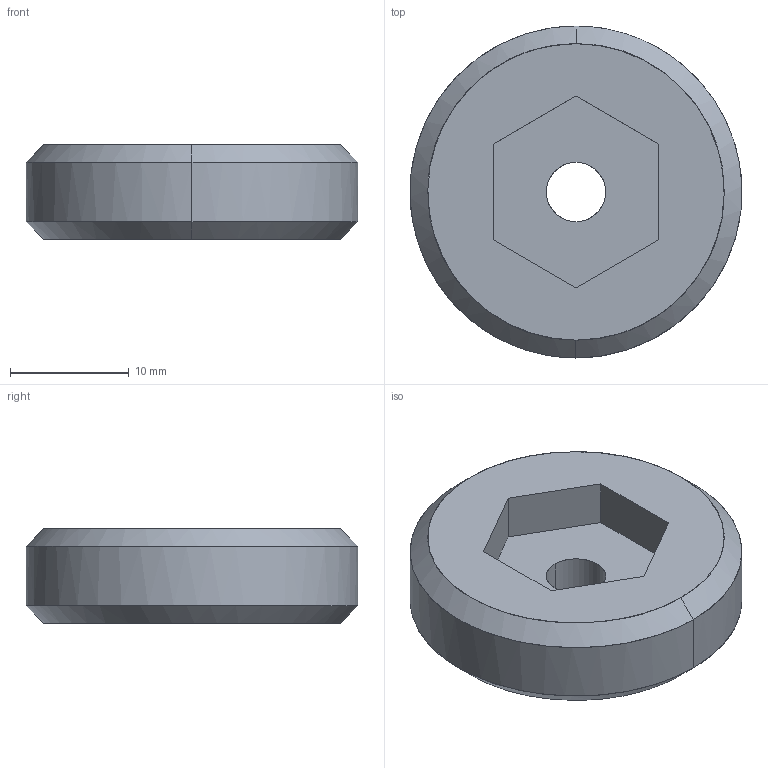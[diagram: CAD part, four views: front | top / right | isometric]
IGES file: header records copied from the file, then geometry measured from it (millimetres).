
Global section: file name: E:\UnigraphicsGraphicData\MISUMI_PRESS-PARTS\IGES\3d_mswsh28-8_00476_r00.igs; native system: NX V5.0; preprocessor: UGS NX IGES V5.0; author: MISUMI; date: 20110105.161527; units: millimetre
Bounding box: 27.98 x 28 x 8 mm (x, y, z)
Surface area: 1995.4 mm2 (no closed solid volume)
Topology: 0 solids, 0 shells, 17 faces, 100 edges, 100 vertices
Faces by surface type: bspline 17
